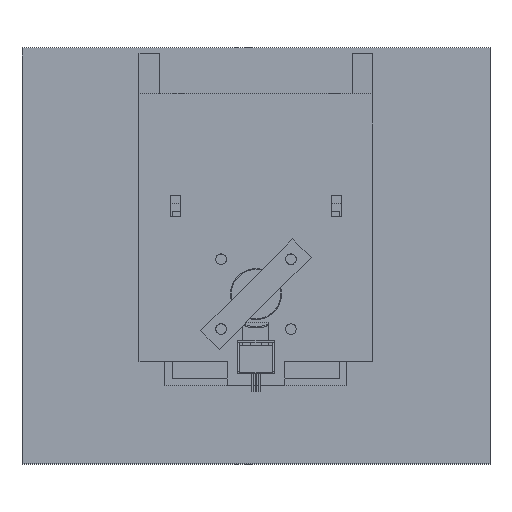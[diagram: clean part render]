
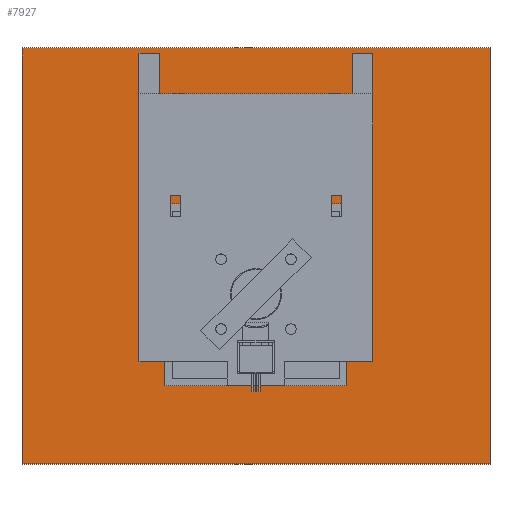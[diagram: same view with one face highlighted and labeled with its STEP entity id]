
A CAD part, top view. The second image highlights one B-rep face of the part: STEP entity #7927.
In plain terms, the highlighted planar face has unit normal (0, 0, 1).
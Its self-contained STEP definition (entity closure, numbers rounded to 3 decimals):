
#307=FACE_BOUND('',#810,.T.);
#308=FACE_BOUND('',#811,.T.);
#378=FACE_OUTER_BOUND('',#809,.T.);
#809=EDGE_LOOP('',(#5275,#5276,#5277,#5278));
#810=EDGE_LOOP('',(#5279,#5280,#5281,#5282));
#811=EDGE_LOOP('',(#5283,#5284,#5285,#5286,#5287,#5288,#5289,#5290,#5291,
#5292,#5293,#5294));
#1308=LINE('',#11324,#2347);
#1313=LINE('',#11333,#2352);
#1314=LINE('',#11336,#2353);
#1315=LINE('',#11337,#2354);
#1316=LINE('',#11340,#2355);
#1317=LINE('',#11342,#2356);
#1318=LINE('',#11344,#2357);
#1319=LINE('',#11345,#2358);
#1320=LINE('',#11348,#2359);
#1321=LINE('',#11350,#2360);
#1322=LINE('',#11352,#2361);
#1323=LINE('',#11354,#2362);
#1324=LINE('',#11356,#2363);
#1325=LINE('',#11358,#2364);
#1326=LINE('',#11360,#2365);
#1327=LINE('',#11362,#2366);
#1328=LINE('',#11364,#2367);
#1329=LINE('',#11366,#2368);
#1330=LINE('',#11368,#2369);
#1331=LINE('',#11369,#2370);
#2347=VECTOR('',#9159,1.);
#2352=VECTOR('',#9166,1.);
#2353=VECTOR('',#9169,1.);
#2354=VECTOR('',#9170,1.);
#2355=VECTOR('',#9171,1.);
#2356=VECTOR('',#9172,1.);
#2357=VECTOR('',#9173,1.);
#2358=VECTOR('',#9174,1.);
#2359=VECTOR('',#9175,1.);
#2360=VECTOR('',#9176,1.);
#2361=VECTOR('',#9177,1.);
#2362=VECTOR('',#9178,1.);
#2363=VECTOR('',#9179,1.);
#2364=VECTOR('',#9180,1.);
#2365=VECTOR('',#9181,1.);
#2366=VECTOR('',#9182,1.);
#2367=VECTOR('',#9183,1.);
#2368=VECTOR('',#9184,1.);
#2369=VECTOR('',#9185,1.);
#2370=VECTOR('',#9186,1.);
#3386=VERTEX_POINT('',#11321);
#3387=VERTEX_POINT('',#11323);
#3390=VERTEX_POINT('',#11331);
#3391=VERTEX_POINT('',#11335);
#3392=VERTEX_POINT('',#11338);
#3393=VERTEX_POINT('',#11339);
#3394=VERTEX_POINT('',#11341);
#3395=VERTEX_POINT('',#11343);
#3396=VERTEX_POINT('',#11346);
#3397=VERTEX_POINT('',#11347);
#3398=VERTEX_POINT('',#11349);
#3399=VERTEX_POINT('',#11351);
#3400=VERTEX_POINT('',#11353);
#3401=VERTEX_POINT('',#11355);
#3402=VERTEX_POINT('',#11357);
#3403=VERTEX_POINT('',#11359);
#3404=VERTEX_POINT('',#11361);
#3405=VERTEX_POINT('',#11363);
#3406=VERTEX_POINT('',#11365);
#3407=VERTEX_POINT('',#11367);
#4134=EDGE_CURVE('',#3386,#3387,#1308,.T.);
#4139=EDGE_CURVE('',#3386,#3390,#1313,.T.);
#4140=EDGE_CURVE('',#3390,#3391,#1314,.T.);
#4141=EDGE_CURVE('',#3387,#3391,#1315,.T.);
#4142=EDGE_CURVE('',#3392,#3393,#1316,.T.);
#4143=EDGE_CURVE('',#3393,#3394,#1317,.T.);
#4144=EDGE_CURVE('',#3395,#3394,#1318,.T.);
#4145=EDGE_CURVE('',#3392,#3395,#1319,.T.);
#4146=EDGE_CURVE('',#3396,#3397,#1320,.T.);
#4147=EDGE_CURVE('',#3396,#3398,#1321,.T.);
#4148=EDGE_CURVE('',#3398,#3399,#1322,.T.);
#4149=EDGE_CURVE('',#3400,#3399,#1323,.T.);
#4150=EDGE_CURVE('',#3400,#3401,#1324,.T.);
#4151=EDGE_CURVE('',#3401,#3402,#1325,.T.);
#4152=EDGE_CURVE('',#3402,#3403,#1326,.T.);
#4153=EDGE_CURVE('',#3403,#3404,#1327,.T.);
#4154=EDGE_CURVE('',#3405,#3404,#1328,.T.);
#4155=EDGE_CURVE('',#3405,#3406,#1329,.T.);
#4156=EDGE_CURVE('',#3407,#3406,#1330,.T.);
#4157=EDGE_CURVE('',#3397,#3407,#1331,.T.);
#5275=ORIENTED_EDGE('',*,*,#4134,.F.);
#5276=ORIENTED_EDGE('',*,*,#4139,.T.);
#5277=ORIENTED_EDGE('',*,*,#4140,.T.);
#5278=ORIENTED_EDGE('',*,*,#4141,.F.);
#5279=ORIENTED_EDGE('',*,*,#4142,.T.);
#5280=ORIENTED_EDGE('',*,*,#4143,.T.);
#5281=ORIENTED_EDGE('',*,*,#4144,.F.);
#5282=ORIENTED_EDGE('',*,*,#4145,.F.);
#5283=ORIENTED_EDGE('',*,*,#4146,.F.);
#5284=ORIENTED_EDGE('',*,*,#4147,.T.);
#5285=ORIENTED_EDGE('',*,*,#4148,.T.);
#5286=ORIENTED_EDGE('',*,*,#4149,.F.);
#5287=ORIENTED_EDGE('',*,*,#4150,.T.);
#5288=ORIENTED_EDGE('',*,*,#4151,.T.);
#5289=ORIENTED_EDGE('',*,*,#4152,.T.);
#5290=ORIENTED_EDGE('',*,*,#4153,.T.);
#5291=ORIENTED_EDGE('',*,*,#4154,.F.);
#5292=ORIENTED_EDGE('',*,*,#4155,.T.);
#5293=ORIENTED_EDGE('',*,*,#4156,.F.);
#5294=ORIENTED_EDGE('',*,*,#4157,.F.);
#7537=PLANE('',#8593);
#7927=ADVANCED_FACE('',(#378,#307,#308),#7537,.T.);
#8593=AXIS2_PLACEMENT_3D('',#11334,#9167,#9168);
#9159=DIRECTION('',(0.,1.,0.));
#9166=DIRECTION('',(1.,0.,0.));
#9167=DIRECTION('center_axis',(0.,0.,1.));
#9168=DIRECTION('ref_axis',(1.,0.,0.));
#9169=DIRECTION('',(0.,1.,0.));
#9170=DIRECTION('',(1.,0.,0.));
#9171=DIRECTION('',(0.,1.,0.));
#9172=DIRECTION('',(1.,0.,0.));
#9173=DIRECTION('',(0.,1.,0.));
#9174=DIRECTION('',(1.,0.,0.));
#9175=DIRECTION('',(1.,0.,0.));
#9176=DIRECTION('',(0.,1.,0.));
#9177=DIRECTION('',(1.,0.,0.));
#9178=DIRECTION('',(0.,1.,0.));
#9179=DIRECTION('',(1.,0.,0.));
#9180=DIRECTION('',(0.,1.,0.));
#9181=DIRECTION('',(1.,0.,0.));
#9182=DIRECTION('',(0.,-1.,0.));
#9183=DIRECTION('',(1.,0.,0.));
#9184=DIRECTION('',(0.,1.,0.));
#9185=DIRECTION('',(1.,0.,0.));
#9186=DIRECTION('',(0.,1.,0.));
#11321=CARTESIAN_POINT('',(0.,0.,8.));
#11323=CARTESIAN_POINT('',(0.,160.,8.));
#11324=CARTESIAN_POINT('',(0.,0.,8.));
#11331=CARTESIAN_POINT('',(180.,0.,8.));
#11333=CARTESIAN_POINT('',(0.,0.,8.));
#11334=CARTESIAN_POINT('Origin',(0.,0.,8.));
#11335=CARTESIAN_POINT('',(180.,160.,8.));
#11336=CARTESIAN_POINT('',(180.,0.,8.));
#11337=CARTESIAN_POINT('',(0.,160.,8.));
#11338=CARTESIAN_POINT('',(55.,30.,8.));
#11339=CARTESIAN_POINT('',(55.,100.,8.));
#11340=CARTESIAN_POINT('',(55.,30.,8.));
#11341=CARTESIAN_POINT('',(125.,100.,8.));
#11342=CARTESIAN_POINT('',(55.,100.,8.));
#11343=CARTESIAN_POINT('',(125.,30.,8.));
#11344=CARTESIAN_POINT('',(125.,30.,8.));
#11345=CARTESIAN_POINT('',(55.,30.,8.));
#11346=CARTESIAN_POINT('',(45.,95.,8.));
#11347=CARTESIAN_POINT('',(53.,95.,8.));
#11348=CARTESIAN_POINT('',(45.,95.,8.));
#11349=CARTESIAN_POINT('',(45.,158.,8.));
#11350=CARTESIAN_POINT('',(45.,95.,8.));
#11351=CARTESIAN_POINT('',(53.,158.,8.));
#11352=CARTESIAN_POINT('',(45.,158.,8.));
#11353=CARTESIAN_POINT('',(53.,142.,8.));
#11354=CARTESIAN_POINT('',(53.,142.,8.));
#11355=CARTESIAN_POINT('',(127.,142.,8.));
#11356=CARTESIAN_POINT('',(45.,142.,8.));
#11357=CARTESIAN_POINT('',(127.,158.,8.));
#11358=CARTESIAN_POINT('',(127.,142.,8.));
#11359=CARTESIAN_POINT('',(135.,158.,8.));
#11360=CARTESIAN_POINT('',(127.,158.,8.));
#11361=CARTESIAN_POINT('',(135.,95.,8.));
#11362=CARTESIAN_POINT('',(135.,158.,8.));
#11363=CARTESIAN_POINT('',(127.,95.,8.));
#11364=CARTESIAN_POINT('',(127.,95.,8.));
#11365=CARTESIAN_POINT('',(127.,130.,8.));
#11366=CARTESIAN_POINT('',(127.,95.,8.));
#11367=CARTESIAN_POINT('',(53.,130.,8.));
#11368=CARTESIAN_POINT('',(45.,130.,8.));
#11369=CARTESIAN_POINT('',(53.,95.,8.));
